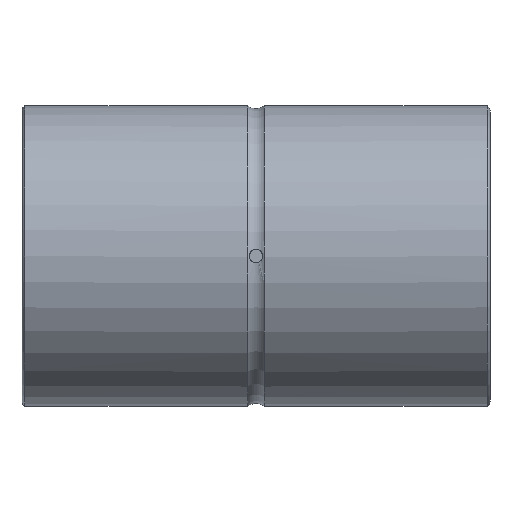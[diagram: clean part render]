
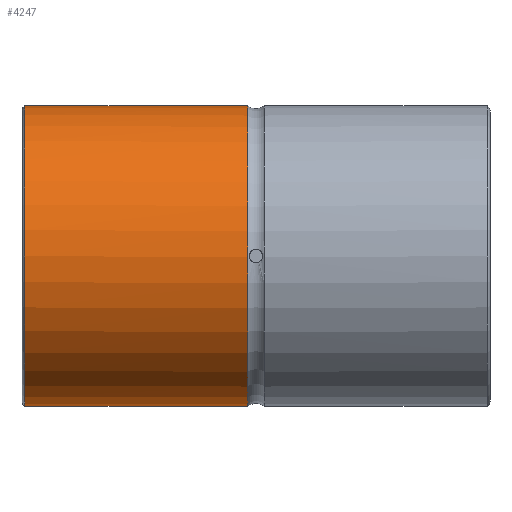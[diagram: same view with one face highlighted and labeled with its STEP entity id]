
A CAD part, front view. The second image highlights one B-rep face of the part: STEP entity #4247.
In plain terms, the highlighted cylindrical face has radius 45 mm (diameter 90 mm), a full revolution.
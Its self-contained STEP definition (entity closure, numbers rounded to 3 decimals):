
#23=B_SPLINE_CURVE_WITH_KNOTS('',3,(#6993,#6994,#6995,#6996,#6997,#6998,
#6999,#7000,#7001,#7002,#7003),.UNSPECIFIED.,.F.,.F.,(4,1,1,1,1,1,1,1,4),
(0.,0.004,0.007,0.011,0.014,
0.018,0.021,0.025,0.028),
 .UNSPECIFIED.);
#370=LINE('',#7006,#764);
#371=LINE('',#7007,#765);
#764=VECTOR('',#5609,1000.);
#765=VECTOR('',#5610,1000.);
#1504=ORIENTED_EDGE('',*,*,#2577,.T.);
#1505=ORIENTED_EDGE('',*,*,#2578,.T.);
#1506=ORIENTED_EDGE('',*,*,#2570,.F.);
#1507=ORIENTED_EDGE('',*,*,#2579,.T.);
#1508=ORIENTED_EDGE('',*,*,#2576,.T.);
#2570=EDGE_CURVE('',#3104,#3105,#3427,.T.);
#2576=EDGE_CURVE('',#3110,#3110,#3429,.T.);
#2577=EDGE_CURVE('',#3111,#3112,#23,.T.);
#2578=EDGE_CURVE('',#3112,#3105,#370,.T.);
#2579=EDGE_CURVE('',#3104,#3111,#371,.F.);
#3104=VERTEX_POINT('',#6942);
#3105=VERTEX_POINT('',#6943);
#3110=VERTEX_POINT('',#6991);
#3111=VERTEX_POINT('',#7004);
#3112=VERTEX_POINT('',#7005);
#3427=CIRCLE('',#4676,45.);
#3429=CIRCLE('',#4679,45.);
#3597=EDGE_LOOP('',(#1504,#1505,#1506,#1507));
#3598=EDGE_LOOP('',(#1508));
#3877=FACE_BOUND('',#3597,.T.);
#3878=FACE_BOUND('',#3598,.T.);
#4110=CYLINDRICAL_SURFACE('',#4680,45.);
#4247=ADVANCED_FACE('',(#3877,#3878),#4110,.T.);
#4676=AXIS2_PLACEMENT_3D('',#6941,#5599,#5600);
#4679=AXIS2_PLACEMENT_3D('',#6990,#5605,#5606);
#4680=AXIS2_PLACEMENT_3D('',#6992,#5607,#5608);
#5599=DIRECTION('',(1.,0.,0.));
#5600=DIRECTION('',(0.,0.,-1.));
#5605=DIRECTION('',(1.,0.,0.));
#5606=DIRECTION('',(0.,0.,-1.));
#5607=DIRECTION('',(1.,0.,0.));
#5608=DIRECTION('',(0.,0.,-1.));
#5609=DIRECTION('',(1.,0.,0.));
#5610=DIRECTION('',(1.,0.,0.));
#6941=CARTESIAN_POINT('',(-2.53,0.,0.));
#6942=CARTESIAN_POINT('',(-2.53,44.091,9.));
#6943=CARTESIAN_POINT('',(-2.53,44.091,-9.));
#6990=CARTESIAN_POINT('',(-69.2,0.,0.));
#6991=CARTESIAN_POINT('',(-69.2,0.,-45.));
#6992=CARTESIAN_POINT('',(70.,0.,0.));
#6993=CARTESIAN_POINT('',(-25.,44.091,9.));
#6994=CARTESIAN_POINT('',(-26.192,44.091,9.));
#6995=CARTESIAN_POINT('',(-28.539,44.191,8.527));
#6996=CARTESIAN_POINT('',(-31.53,44.548,6.528));
#6997=CARTESIAN_POINT('',(-33.526,44.902,3.545));
#6998=CARTESIAN_POINT('',(-34.236,45.049,0.008));
#6999=CARTESIAN_POINT('',(-33.532,44.903,-3.533));
#7000=CARTESIAN_POINT('',(-31.532,44.549,-6.526));
#7001=CARTESIAN_POINT('',(-28.543,44.192,-8.526));
#7002=CARTESIAN_POINT('',(-26.192,44.091,-9.));
#7003=CARTESIAN_POINT('',(-25.,44.091,-9.));
#7004=CARTESIAN_POINT('',(-25.,44.091,9.));
#7005=CARTESIAN_POINT('',(-25.,44.091,-9.));
#7006=CARTESIAN_POINT('',(70.,44.091,-9.));
#7007=CARTESIAN_POINT('',(70.,44.091,9.));
